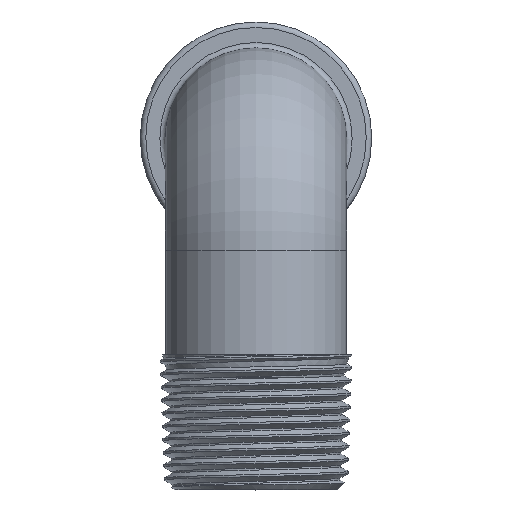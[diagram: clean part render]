
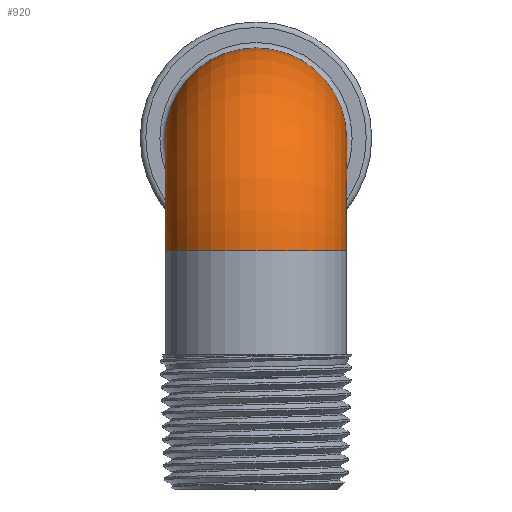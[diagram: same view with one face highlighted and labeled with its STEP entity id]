
A CAD part, top view. The second image highlights one B-rep face of the part: STEP entity #920.
In plain terms, the highlighted toroidal (fillet/blend) face has major radius 15.621 mm and minor radius 12.573 mm.
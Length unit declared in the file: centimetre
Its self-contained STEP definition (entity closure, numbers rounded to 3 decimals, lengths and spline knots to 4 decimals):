
#271=VERTEX_POINT('',#1186);
#346=VERTEX_POINT('',#22902);
#354=CIRCLE('',#932,1.2573);
#373=CIRCLE('',#992,1.2573);
#381=EDGE_CURVE('',#271,#271,#354,.T.);
#488=EDGE_CURVE('',#346,#346,#373,.T.);
#717=ORIENTED_EDGE('',*,*,#488,.T.);
#718=ORIENTED_EDGE('',*,*,#381,.T.);
#791=EDGE_LOOP('',(#717));
#792=EDGE_LOOP('',(#718));
#865=FACE_BOUND('',#791,.T.);
#866=FACE_BOUND('',#792,.T.);
#920=ADVANCED_FACE('',(#865,#866),#22915,.T.);
#932=AXIS2_PLACEMENT_3D('',#1185,#1016,#1017);
#992=AXIS2_PLACEMENT_3D('',#22901,#1158,#1159);
#997=AXIS2_PLACEMENT_3D('',#22909,#1168,$);
#1016=DIRECTION('',(0.,0.,1.));
#1017=DIRECTION('',(1.257,0.,0.));
#1158=DIRECTION('',(0.,1.,0.));
#1159=DIRECTION('',(1.257,0.,0.));
#1168=DIRECTION('',(1.,0.,0.));
#1185=CARTESIAN_POINT('',(0.,0.,0.));
#1186=CARTESIAN_POINT('',(1.2573,0.,0.));
#22901=CARTESIAN_POINT('',(0.,-1.5621,1.5621));
#22902=CARTESIAN_POINT('',(1.2573,-1.5621,1.5621));
#22909=CARTESIAN_POINT('',(0.,-1.5621,0.));
#22915=TOROIDAL_SURFACE('',#997,1.5621,1.2573);
